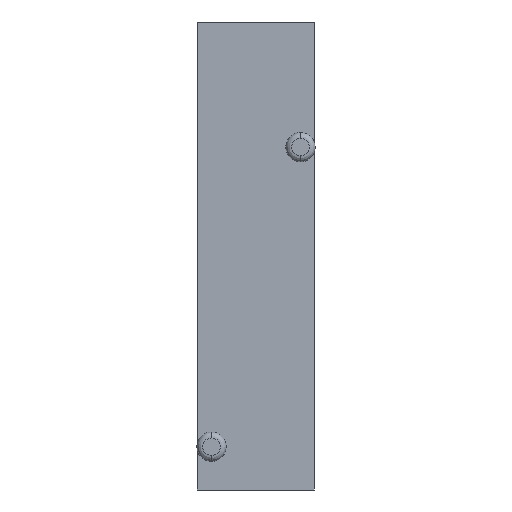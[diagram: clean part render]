
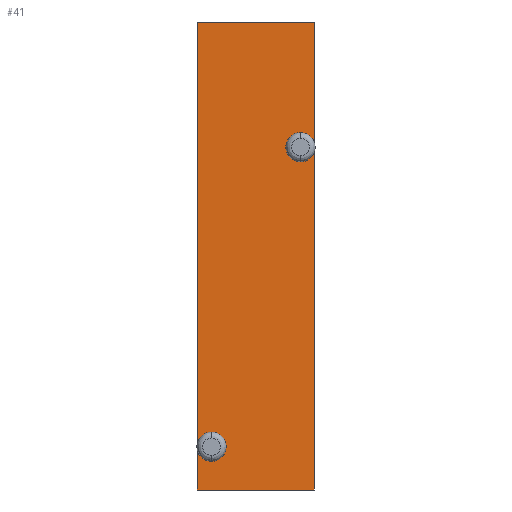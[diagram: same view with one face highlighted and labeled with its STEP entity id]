
A CAD part, front view. The second image highlights one B-rep face of the part: STEP entity #41.
In plain terms, the highlighted planar face has unit normal (0, -1, 0).
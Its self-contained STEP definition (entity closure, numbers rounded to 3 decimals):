
#41=ADVANCED_FACE('',(#65),#64,.F.);
#64=PLANE('',#202);
#65=FACE_OUTER_BOUND('',#203,.T.);
#199=CARTESIAN_POINT('',(-9.8,-1.9,14.7));
#200=DIRECTION('',(0.,1.,0.));
#201=DIRECTION('',(1.,0.,0.));
#202=AXIS2_PLACEMENT_3D('',#199,#200,#201);
#203=EDGE_LOOP('',(#350,#351,#352,#353,#354,#355,#356,#357,#358,#359,#360,#361));
#350=ORIENTED_EDGE('',*,*,#414,.T.);
#351=ORIENTED_EDGE('',*,*,#415,.T.);
#352=ORIENTED_EDGE('',*,*,#416,.T.);
#353=ORIENTED_EDGE('',*,*,#417,.T.);
#354=ORIENTED_EDGE('',*,*,#418,.T.);
#355=ORIENTED_EDGE('',*,*,#419,.T.);
#356=ORIENTED_EDGE('',*,*,#420,.T.);
#357=ORIENTED_EDGE('',*,*,#421,.F.);
#358=ORIENTED_EDGE('',*,*,#422,.F.);
#359=ORIENTED_EDGE('',*,*,#423,.F.);
#360=ORIENTED_EDGE('',*,*,#424,.T.);
#361=ORIENTED_EDGE('',*,*,#425,.T.);
#414=EDGE_CURVE('',#458,#459,#460,.T.);
#415=EDGE_CURVE('',#459,#466,#467,.T.);
#416=EDGE_CURVE('',#466,#473,#474,.T.);
#417=EDGE_CURVE('',#473,#480,#481,.T.);
#418=EDGE_CURVE('',#480,#487,#488,.T.);
#419=EDGE_CURVE('',#487,#494,#495,.T.);
#420=EDGE_CURVE('',#494,#501,#502,.T.);
#421=EDGE_CURVE('',#508,#501,#509,.T.);
#422=EDGE_CURVE('',#515,#508,#516,.T.);
#423=EDGE_CURVE('',#522,#515,#523,.T.);
#424=EDGE_CURVE('',#522,#529,#530,.T.);
#425=EDGE_CURVE('',#529,#458,#536,.T.);
#458=VERTEX_POINT('',#666);
#459=VERTEX_POINT('',#667);
#460=LINE('',#668,#669);
#466=VERTEX_POINT('',#671);
#467=CIRCLE('',#675,1.25);
#473=VERTEX_POINT('',#676);
#474=CIRCLE('',#680,1.25);
#480=VERTEX_POINT('',#681);
#481=CIRCLE('',#685,1.25);
#487=VERTEX_POINT('',#686);
#488=LINE('',#687,#688);
#494=VERTEX_POINT('',#690);
#495=LINE('',#691,#692);
#501=VERTEX_POINT('',#694);
#502=LINE('',#695,#696);
#508=VERTEX_POINT('',#698);
#509=CIRCLE('',#702,1.25);
#515=VERTEX_POINT('',#703);
#516=CIRCLE('',#707,1.25);
#522=VERTEX_POINT('',#708);
#523=CIRCLE('',#712,1.25);
#529=VERTEX_POINT('',#713);
#530=LINE('',#714,#715);
#536=LINE('',#717,#718);
#666=CARTESIAN_POINT('',(1.2,-1.9,-29.3));
#667=CARTESIAN_POINT('',(1.2,-1.9,-0.35));
#668=CARTESIAN_POINT('',(1.2,-1.9,-29.3));
#669=VECTOR('',#670,28.95);
#670=DIRECTION('',(0.,0.,1.));
#671=CARTESIAN_POINT('',(0.,-1.9,-1.25));
#672=CARTESIAN_POINT('',(0.,-1.9,0.));
#673=DIRECTION('',(0.,1.,0.));
#674=DIRECTION('',(0.96,0.,-0.28));
#675=AXIS2_PLACEMENT_3D('',#672,#673,#674);
#676=CARTESIAN_POINT('',(0.,-1.9,1.25));
#677=CARTESIAN_POINT('',(0.,-1.9,0.));
#678=DIRECTION('',(0.,1.,0.));
#679=DIRECTION('',(0.96,0.,-0.28));
#680=AXIS2_PLACEMENT_3D('',#677,#678,#679);
#681=CARTESIAN_POINT('',(1.2,-1.9,0.35));
#682=CARTESIAN_POINT('',(0.,-1.9,0.));
#683=DIRECTION('',(0.,1.,0.));
#684=DIRECTION('',(0.96,0.,-0.28));
#685=AXIS2_PLACEMENT_3D('',#682,#683,#684);
#686=CARTESIAN_POINT('',(1.2,-1.9,10.7));
#687=CARTESIAN_POINT('',(1.2,-1.9,0.35));
#688=VECTOR('',#689,10.35);
#689=DIRECTION('',(0.,0.,1.));
#690=CARTESIAN_POINT('',(-8.8,-1.9,10.7));
#691=CARTESIAN_POINT('',(1.2,-1.9,10.7));
#692=VECTOR('',#693,10.);
#693=DIRECTION('',(-1.,0.,0.));
#694=CARTESIAN_POINT('',(-8.8,-1.9,-25.25));
#695=CARTESIAN_POINT('',(-8.8,-1.9,10.7));
#696=VECTOR('',#697,35.95);
#697=DIRECTION('',(0.,0.,-1.));
#698=CARTESIAN_POINT('',(-7.6,-1.9,-24.35));
#699=CARTESIAN_POINT('',(-7.6,-1.9,-25.6));
#700=DIRECTION('',(0.,-1.,0.));
#701=DIRECTION('',(-0.96,0.,-0.28));
#702=AXIS2_PLACEMENT_3D('',#699,#700,#701);
#703=CARTESIAN_POINT('',(-7.6,-1.9,-26.85));
#704=CARTESIAN_POINT('',(-7.6,-1.9,-25.6));
#705=DIRECTION('',(0.,-1.,0.));
#706=DIRECTION('',(-0.96,0.,-0.28));
#707=AXIS2_PLACEMENT_3D('',#704,#705,#706);
#708=CARTESIAN_POINT('',(-8.8,-1.9,-25.95));
#709=CARTESIAN_POINT('',(-7.6,-1.9,-25.6));
#710=DIRECTION('',(0.,-1.,0.));
#711=DIRECTION('',(-0.96,0.,-0.28));
#712=AXIS2_PLACEMENT_3D('',#709,#710,#711);
#713=CARTESIAN_POINT('',(-8.8,-1.9,-29.3));
#714=CARTESIAN_POINT('',(-8.8,-1.9,-25.95));
#715=VECTOR('',#716,3.35);
#716=DIRECTION('',(0.,0.,-1.));
#717=CARTESIAN_POINT('',(-8.8,-1.9,-29.3));
#718=VECTOR('',#719,10.);
#719=DIRECTION('',(1.,0.,0.));
